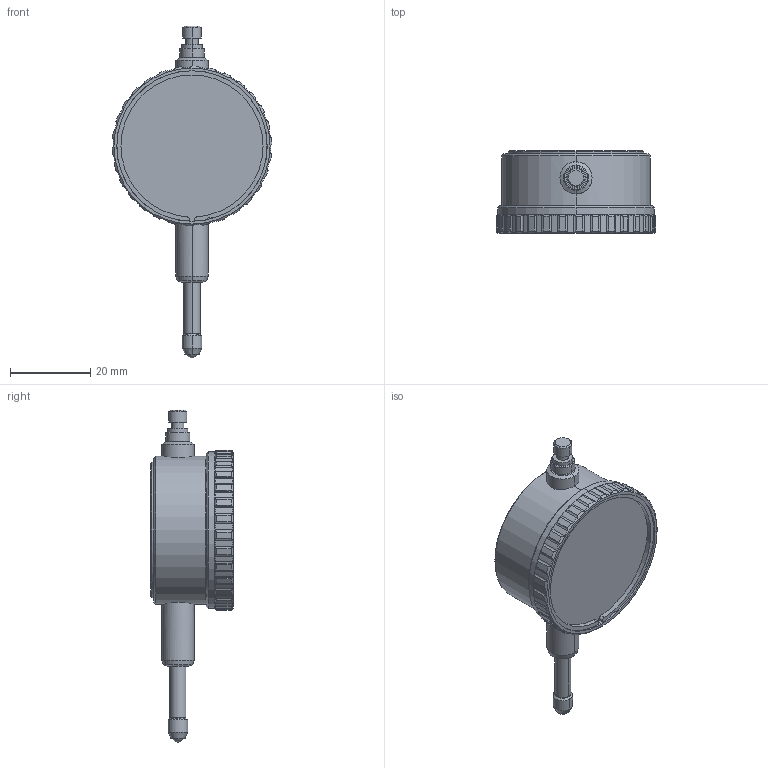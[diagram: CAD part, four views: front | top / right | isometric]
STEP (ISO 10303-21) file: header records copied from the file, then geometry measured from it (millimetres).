
FILE_DESCRIPTION(('STEP AP214'),'1');
FILE_NAME('KM10a.STP','2016-07-19T08:28:08',(' '),(' '),'Spatial InterOp 3D',' ',' ');
FILE_SCHEMA(('automotive_design'));
Length unit declared in the file: millimetre
Products named in the file (1): 1
Bounding box: 39.98 x 20.6 x 82.99 mm (x, y, z)
Volume: 22319.5 mm3; surface area: 7866.3 mm2
Topology: 1 solids, 5 shells, 270 faces, 700 edges, 456 vertices
Faces by surface type: cylinder 198, plane 41, cone 30, sphere 1
Entity records: 12559 total; most frequent: CARTESIAN_POINT 6173, ORIENTED_EDGE 1400, DIRECTION 1234, EDGE_CURVE 700, AXIS2_PLACEMENT_3D 489, VERTEX_POINT 456, EDGE_LOOP 292, ADVANCED_FACE 270
